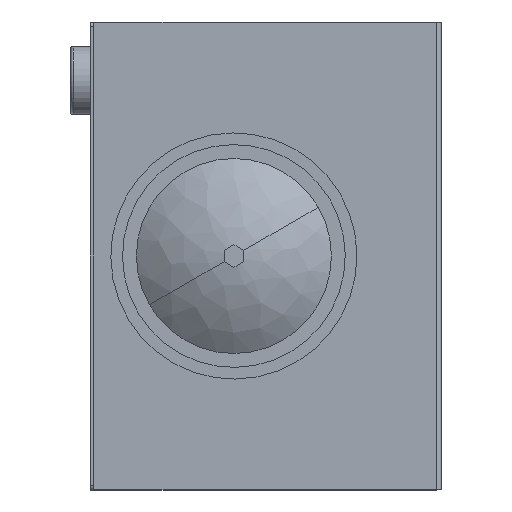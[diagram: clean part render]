
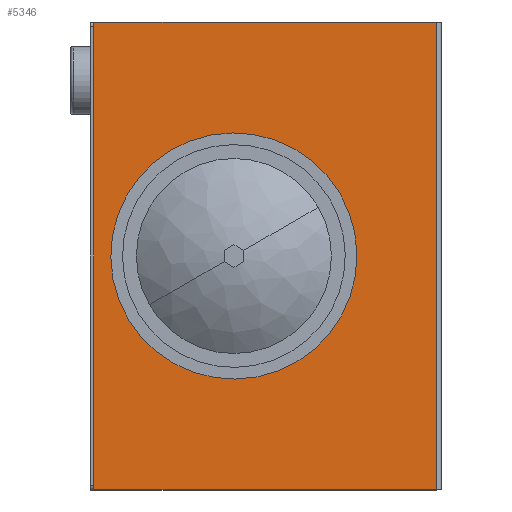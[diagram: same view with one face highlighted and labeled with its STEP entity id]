
A CAD part, left-side view. The second image highlights one B-rep face of the part: STEP entity #5346.
In plain terms, the highlighted planar face has unit normal (-1, 0, 0) as drawn and (1, 0, 0) by its records, which use the part's own axes.
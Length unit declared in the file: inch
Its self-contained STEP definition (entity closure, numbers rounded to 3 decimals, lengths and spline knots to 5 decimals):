
#356 = VERTEX_POINT ( 'NONE', #7080 ) ;
#430 = DIRECTION ( 'NONE',  ( -1., 0., 0. ) ) ;
#810 = VECTOR ( 'NONE', #5821, 39.37008 ) ;
#871 = CIRCLE ( 'NONE', #6081, 5. ) ;
#1037 = LINE ( 'NONE', #4999, #810 ) ;
#1112 = DIRECTION ( 'NONE',  ( 0., 0., 1. ) ) ;
#1324 = FACE_BOUND ( 'NONE', #8054, .T. ) ;
#1528 = EDGE_CURVE ( 'NONE', #2591, #4984, #1037, .T. ) ;
#1607 = EDGE_LOOP ( 'NONE', ( #6068, #4233, #2897, #2878 ) ) ;
#1668 = AXIS2_PLACEMENT_3D ( 'NONE', #6815, #2675, #7515 ) ;
#1776 = CARTESIAN_POINT ( 'NONE',  ( 0., 0., 0. ) ) ;
#1829 = CARTESIAN_POINT ( 'NONE',  ( 0., 8.90625, -12. ) ) ;
#1946 = EDGE_CURVE ( 'NONE', #8051, #8201, #2326, .T. ) ;
#1948 = ORIENTED_EDGE ( 'NONE', *, *, #8168, .F. ) ;
#2296 = CARTESIAN_POINT ( 'NONE',  ( 0., 8.90625, 12. ) ) ;
#2326 = LINE ( 'NONE', #2296, #3959 ) ;
#2475 = CARTESIAN_POINT ( 'NONE',  ( 0., -8.90625, 12. ) ) ;
#2591 = VERTEX_POINT ( 'NONE', #7743 ) ;
#2610 = CARTESIAN_POINT ( 'NONE',  ( 0., 1.72825, 5. ) ) ;
#2675 = DIRECTION ( 'NONE',  ( 1., 0., 0. ) ) ;
#2878 = ORIENTED_EDGE ( 'NONE', *, *, #7965, .T. ) ;
#2897 = ORIENTED_EDGE ( 'NONE', *, *, #1946, .T. ) ;
#2976 = AXIS2_PLACEMENT_3D ( 'NONE', #1776, #430, #1112 ) ;
#3168 = VECTOR ( 'NONE', #9017, 39.37008 ) ;
#3193 = PLANE ( 'NONE',  #2976 ) ;
#3384 = LINE ( 'NONE', #3491, #3168 ) ;
#3400 = CARTESIAN_POINT ( 'NONE',  ( 0., 8.90625, 12. ) ) ;
#3491 = CARTESIAN_POINT ( 'NONE',  ( 0., -8.90625, -12. ) ) ;
#3615 = DIRECTION ( 'NONE',  ( 1., 0., 0. ) ) ;
#3664 = CARTESIAN_POINT ( 'NONE',  ( 0., -8.65625, -12. ) ) ;
#3959 = VECTOR ( 'NONE', #5702, 39.37008 ) ;
#4233 = ORIENTED_EDGE ( 'NONE', *, *, #6484, .T. ) ;
#4588 = VECTOR ( 'NONE', #7327, 39.37008 ) ;
#4801 = LINE ( 'NONE', #2475, #4588 ) ;
#4984 = VERTEX_POINT ( 'NONE', #3664 ) ;
#4999 = CARTESIAN_POINT ( 'NONE',  ( 0., -8.65625, 12. ) ) ;
#5325 = CIRCLE ( 'NONE', #1668, 5. ) ;
#5346 = ADVANCED_FACE ( 'NONE', ( #1324, #6643 ), #3193, .F. ) ;
#5390 = VERTEX_POINT ( 'NONE', #2610 ) ;
#5702 = DIRECTION ( 'NONE',  ( 0., 0., 1. ) ) ;
#5821 = DIRECTION ( 'NONE',  ( 0., 0., -1. ) ) ;
#6068 = ORIENTED_EDGE ( 'NONE', *, *, #1528, .T. ) ;
#6081 = AXIS2_PLACEMENT_3D ( 'NONE', #7758, #3615, #8453 ) ;
#6484 = EDGE_CURVE ( 'NONE', #4984, #8051, #3384, .T. ) ;
#6643 = FACE_OUTER_BOUND ( 'NONE', #1607, .T. ) ;
#6651 = EDGE_CURVE ( 'NONE', #5390, #356, #871, .T. ) ;
#6815 = CARTESIAN_POINT ( 'NONE',  ( 0., 1.72825, 0. ) ) ;
#7080 = CARTESIAN_POINT ( 'NONE',  ( 0., 1.72825, -5. ) ) ;
#7327 = DIRECTION ( 'NONE',  ( 0., -1., 0. ) ) ;
#7515 = DIRECTION ( 'NONE',  ( 0., 0., -1. ) ) ;
#7743 = CARTESIAN_POINT ( 'NONE',  ( 0., -8.65625, 12. ) ) ;
#7758 = CARTESIAN_POINT ( 'NONE',  ( 0., 1.72825, 0. ) ) ;
#7965 = EDGE_CURVE ( 'NONE', #8201, #2591, #4801, .T. ) ;
#8051 = VERTEX_POINT ( 'NONE', #1829 ) ;
#8054 = EDGE_LOOP ( 'NONE', ( #1948, #8620 ) ) ;
#8168 = EDGE_CURVE ( 'NONE', #356, #5390, #5325, .T. ) ;
#8201 = VERTEX_POINT ( 'NONE', #3400 ) ;
#8453 = DIRECTION ( 'NONE',  ( 0., 0., -1. ) ) ;
#8620 = ORIENTED_EDGE ( 'NONE', *, *, #6651, .F. ) ;
#9017 = DIRECTION ( 'NONE',  ( 0., 1., 0. ) ) ;
